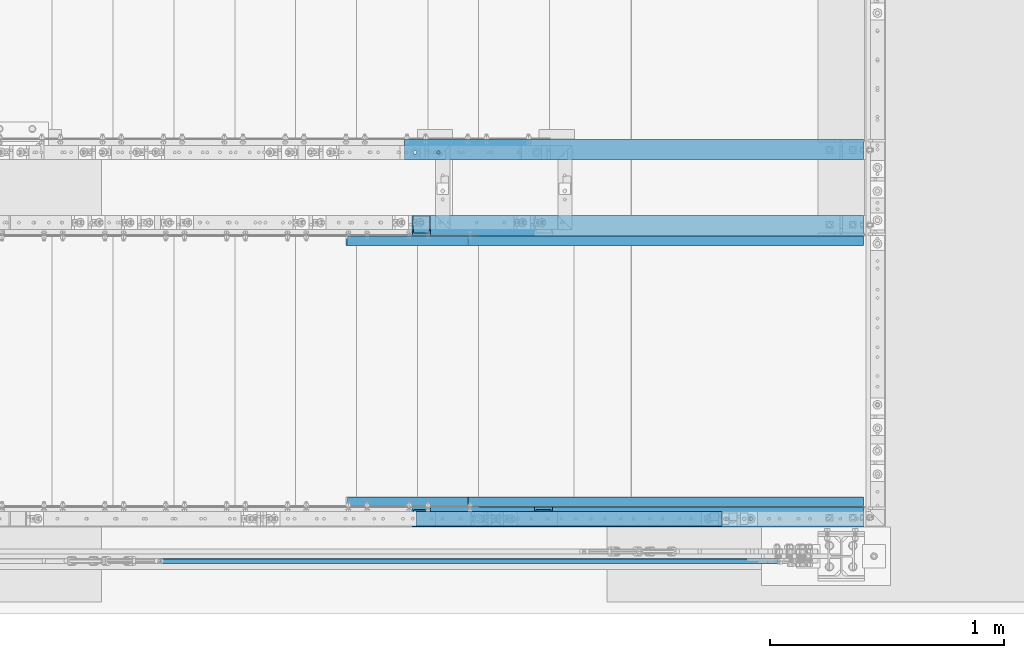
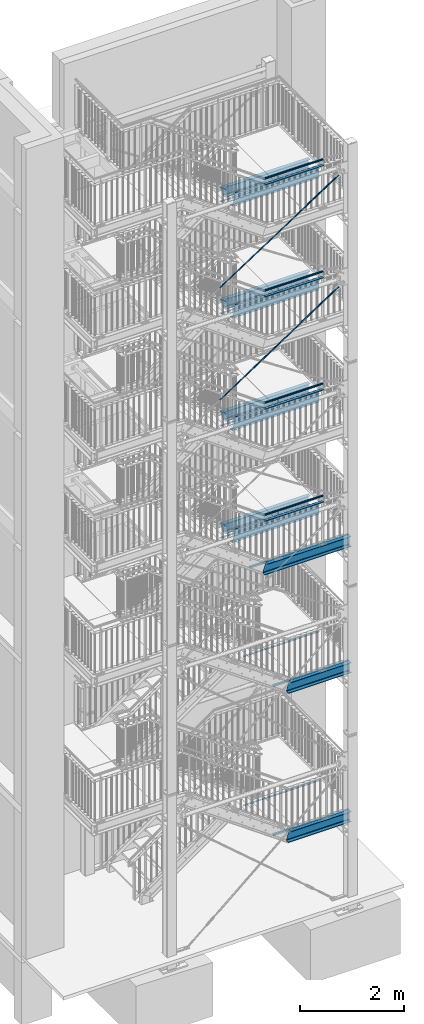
# One storey, part 127 of 825: 28 beams, 2 members, 38 openings.
"""IFC2X3 building model written with IfcOpenShell, lengths in millimetres."""

from ifc_helpers import new_model, entity, si_unit, converted_unit, frame, frame_2d, origin, origin_with_axes, origin_2d, origin_2d_with_axis, place, context, project, spatial, rectangle, circle, hollow_circle, l_section, u_section, extrude, clip, halfspace, material, element, save


model = new_model("IFC2X3")

# Units and contexts
model_context = context("Model", 3, precision=1e-09, world=origin_with_axes())
ifc_project = project(units=[si_unit("LENGTHUNIT", "METRE", prefix="MILLI"), si_unit("AREAUNIT", "SQUARE_METRE"), si_unit("VOLUMEUNIT", "CUBIC_METRE"), converted_unit("PLANEANGLEUNIT", "DEGREE", entity("IfcPlaneAngleMeasure", 0.01745329), si_unit("PLANEANGLEUNIT", "RADIAN"), dimensions=[0, 0, 0, 0, 0, 0, 0])], contexts=[model_context])

# Site, building, storey
site_placement = place(None, origin_with_axes())
site = spatial("IfcSite", under=ifc_project, at=site_placement, Name="Cnopf'sche Kinderklinik", CompositionType="ELEMENT")
building_placement = place(site_placement, origin_with_axes())
building = spatial("IfcBuilding", under=site, at=building_placement, Name="Struktur 1", CompositionType="ELEMENT")
storey_placement = place(building_placement, origin_with_axes())
storey = spatial("IfcBuildingStorey", under=building, at=storey_placement, Name="Default Storey", CompositionType="ELEMENT", Elevation=0.0)

# Beam, openings
ifc_material = material(Name="S235JR")
beam_1_placement = place(None, frame((6741.392105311, 6124.436971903, 11145.5000003), z_axis=(-1.0, 0.0, 0.0), x_axis=(0.0, -1.0, 0.0)))
beam_1 = element("IfcBeam", 1, at=beam_1_placement, inside=storey, material=ifc_material, Name="Stringer", ObjectType="Stringer", context=model_context, shape_type="Clipping", body=[
    clip(clip(extrude(u_section(Depth=240.0, FlangeWidth=85.0, WebThickness=9.5, FlangeThickness=13.0, FilletRadius=13.0, EdgeRadius=6.5, FlangeSlope=4.574, at=frame_2d((20.2, 0.0))), origin(), (0.0, 0.0, -1.0), 2477.625068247), halfspace(frame((6124.436971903, -11145.5000003, -2220.320297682), z_axis=(0.0, 0.0, 1.0), x_axis=(1.0, 0.0, 0.0)), True)), halfspace(frame((6124.436971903, -8031.601758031, -2894.216134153), z_axis=(0.0, 0.307506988, -0.951545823), x_axis=(-1.0, 0.0, 0.0)), True)),
])
opening_1_placement = place(beam_1_placement, frame((32.7, 120.5, -398.321297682), z_axis=(0.0, 1.0, 0.0), x_axis=(-1.0, 0.0, 0.0)))
element("IfcOpeningElement", 2, at=opening_1_placement, cuts=beam_1, ObjectType="Opening", context=model_context, shape_type="SweptSolid", body=[
    extrude(circle(Radius=7.001, at=frame_2d((0.0, -7.001), x_axis=(1.0, 0.0))), origin(), (0.0, 0.0, -1.0), 14.0),
])
opening_2_placement = place(beam_1_placement, frame((32.7, 120.5, -298.321297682), z_axis=(0.0, 1.0, 0.0), x_axis=(-1.0, 0.0, 0.0)))
element("IfcOpeningElement", 3, at=opening_2_placement, cuts=beam_1, ObjectType="Opening", context=model_context, shape_type="SweptSolid", body=[
    extrude(circle(Radius=7.001, at=frame_2d((0.0, -7.001), x_axis=(1.0, 0.0))), origin(), (0.0, 0.0, -1.0), 14.0),
])
opening_3_placement = place(beam_1_placement, frame((22.7, -120.5, -2175.321297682), z_axis=(0.0, 1.0, 0.0), x_axis=(-1.0, 0.0, 0.0)))
element("IfcOpeningElement", 4, at=opening_3_placement, cuts=beam_1, ObjectType="Opening", context=model_context, shape_type="SweptSolid", body=[
    extrude(circle(Radius=7.001, at=origin_2d_with_axis()), origin(), (0.0, 0.0, 1.0), 14.0),
])
opening_4_placement = place(beam_1_placement, frame((22.7, -120.5, -2075.321297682), z_axis=(0.0, 1.0, 0.0), x_axis=(-1.0, 0.0, 0.0)))
element("IfcOpeningElement", 5, at=opening_4_placement, cuts=beam_1, ObjectType="Opening", context=model_context, shape_type="SweptSolid", body=[
    extrude(circle(Radius=7.001, at=origin_2d_with_axis()), origin(), (0.0, 0.0, 1.0), 14.0),
])

beam_2_placement = place(None, frame((6741.459458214, 6124.436971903, 8516.0), z_axis=(-1.0, 0.0, 0.0), x_axis=(0.0, -1.0, 0.0)))
beam_2 = element("IfcBeam", 6, at=beam_2_placement, inside=storey, material=ifc_material, Name="Stringer", ObjectType="Stringer", context=model_context, shape_type="Clipping", body=[
    clip(clip(extrude(u_section(Depth=240.0, FlangeWidth=85.0, WebThickness=9.5, FlangeThickness=13.0, FilletRadius=13.0, EdgeRadius=6.5, FlangeSlope=4.574, at=frame_2d((20.2, 0.0))), origin(), (0.0, 0.0, -1.0), 2477.557715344), halfspace(frame((6124.436971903, -8516.0, -2220.25294478), z_axis=(0.0, 0.0, 1.0), x_axis=(1.0, 0.0, 0.0)), True)), halfspace(frame((6124.436971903, -5645.874307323, -2126.143079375), z_axis=(0.0, 0.307936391, -0.951406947), x_axis=(-1.0, 0.0, 0.0)), True)),
])
opening_5_placement = place(beam_2_placement, frame((32.7, 120.5, -398.25394478), z_axis=(0.0, 1.0, 0.0), x_axis=(-1.0, 0.0, 0.0)))
element("IfcOpeningElement", 7, at=opening_5_placement, cuts=beam_2, ObjectType="Opening", context=model_context, shape_type="SweptSolid", body=[
    extrude(circle(Radius=7.001, at=frame_2d((0.0, -7.001), x_axis=(1.0, 0.0))), origin(), (0.0, 0.0, -1.0), 14.0),
])
opening_6_placement = place(beam_2_placement, frame((32.7, 120.5, -298.25394478), z_axis=(0.0, 1.0, 0.0), x_axis=(-1.0, 0.0, 0.0)))
element("IfcOpeningElement", 8, at=opening_6_placement, cuts=beam_2, ObjectType="Opening", context=model_context, shape_type="SweptSolid", body=[
    extrude(circle(Radius=7.001, at=frame_2d((0.0, -7.001), x_axis=(1.0, 0.0))), origin(), (0.0, 0.0, -1.0), 14.0),
])
opening_7_placement = place(beam_2_placement, frame((22.7, -120.5, -2075.25394478), z_axis=(0.0, 1.0, 0.0), x_axis=(-1.0, 0.0, 0.0)))
element("IfcOpeningElement", 9, at=opening_7_placement, cuts=beam_2, ObjectType="Opening", context=model_context, shape_type="SweptSolid", body=[
    extrude(circle(Radius=7.001, at=origin_2d_with_axis()), origin(), (0.0, 0.0, 1.0), 14.0),
])
opening_8_placement = place(beam_2_placement, frame((22.7, -120.5, -2175.25394478), z_axis=(0.0, 1.0, 0.0), x_axis=(-1.0, 0.0, 0.0)))
element("IfcOpeningElement", 10, at=opening_8_placement, cuts=beam_2, ObjectType="Opening", context=model_context, shape_type="SweptSolid", body=[
    extrude(circle(Radius=7.001, at=origin_2d_with_axis()), origin(), (0.0, 0.0, 1.0), 14.0),
])

beam_3_placement = place(None, frame((6741.499671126, 6124.436971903, 13776.5000001), z_axis=(-1.0, 0.0, 0.0), x_axis=(0.0, -1.0, 0.0)))
beam_3 = element("IfcBeam", 11, at=beam_3_placement, inside=storey, material=ifc_material, Name="Stringer", ObjectType="Stringer", context=model_context, shape_type="Clipping", body=[
    clip(clip(extrude(u_section(Depth=240.0, FlangeWidth=85.0, WebThickness=9.5, FlangeThickness=13.0, FilletRadius=13.0, EdgeRadius=6.5, FlangeSlope=4.574, at=frame_2d((20.2, 0.0))), origin(), (0.0, 0.0, -1.0), 2477.517502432), halfspace(frame((6124.436971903, -13776.5000001, -2220.212731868), z_axis=(0.0, 0.0, 1.0), x_axis=(1.0, 0.0, 0.0)), True)), halfspace(frame((6124.436971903, -10403.792085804, -3669.278777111), z_axis=(0.0, 0.308193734, -0.951323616), x_axis=(-1.0, 0.0, 0.0)), True)),
])
opening_9_placement = place(beam_3_placement, frame((32.7, 120.5, -398.213731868), z_axis=(0.0, 1.0, 0.0), x_axis=(-1.0, 0.0, 0.0)))
element("IfcOpeningElement", 12, at=opening_9_placement, cuts=beam_3, ObjectType="Opening", context=model_context, shape_type="SweptSolid", body=[
    extrude(circle(Radius=7.001, at=frame_2d((0.0, -7.001), x_axis=(1.0, 0.0))), origin(), (0.0, 0.0, -1.0), 14.0),
])
opening_10_placement = place(beam_3_placement, frame((32.7, 120.5, -298.213731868), z_axis=(0.0, 1.0, 0.0), x_axis=(-1.0, 0.0, 0.0)))
element("IfcOpeningElement", 13, at=opening_10_placement, cuts=beam_3, ObjectType="Opening", context=model_context, shape_type="SweptSolid", body=[
    extrude(circle(Radius=7.001, at=frame_2d((0.0, -7.001), x_axis=(1.0, 0.0))), origin(), (0.0, 0.0, -1.0), 14.0),
])
opening_11_placement = place(beam_3_placement, frame((22.7, -120.5, -2175.213731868), z_axis=(0.0, 1.0, 0.0), x_axis=(-1.0, 0.0, 0.0)))
element("IfcOpeningElement", 14, at=opening_11_placement, cuts=beam_3, ObjectType="Opening", context=model_context, shape_type="SweptSolid", body=[
    extrude(circle(Radius=7.001, at=origin_2d_with_axis()), origin(), (0.0, 0.0, 1.0), 14.0),
])
opening_12_placement = place(beam_3_placement, frame((22.7, -120.5, -2075.213731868), z_axis=(0.0, 1.0, 0.0), x_axis=(-1.0, 0.0, 0.0)))
element("IfcOpeningElement", 15, at=opening_12_placement, cuts=beam_3, ObjectType="Opening", context=model_context, shape_type="SweptSolid", body=[
    extrude(circle(Radius=7.001, at=origin_2d_with_axis()), origin(), (0.0, 0.0, 1.0), 14.0),
])

beam_4_placement = place(None, frame((6741.297112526, 6124.436971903, 16404.0000003), z_axis=(-1.0, 0.0, 0.0), x_axis=(0.0, -1.0, 0.0)))
beam_4 = element("IfcBeam", 16, at=beam_4_placement, inside=storey, material=ifc_material, Name="Stringer", ObjectType="Stringer", context=model_context, shape_type="Clipping", body=[
    clip(clip(extrude(u_section(Depth=240.0, FlangeWidth=85.0, WebThickness=9.5, FlangeThickness=13.0, FilletRadius=13.0, EdgeRadius=6.5, FlangeSlope=4.574, at=frame_2d((20.2, 0.0))), origin(), (0.0, 0.0, -1.0), 2477.720061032), halfspace(frame((6124.436971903, -16404.0000003, -2220.415290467), z_axis=(0.0, 0.0, 1.0), x_axis=(1.0, 0.0, 0.0)), True)), halfspace(frame((6124.436971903, -12802.606591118, -4426.958467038), z_axis=(0.0, 0.306904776, -0.951740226), x_axis=(-1.0, 0.0, 0.0)), True)),
])
opening_13_placement = place(beam_4_placement, frame((32.7, 120.5, -398.416290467), z_axis=(0.0, 1.0, 0.0), x_axis=(-1.0, 0.0, 0.0)))
element("IfcOpeningElement", 17, at=opening_13_placement, cuts=beam_4, ObjectType="Opening", context=model_context, shape_type="SweptSolid", body=[
    extrude(circle(Radius=7.001, at=frame_2d((0.0, -7.001), x_axis=(1.0, 0.0))), origin(), (0.0, 0.0, -1.0), 14.0),
])
opening_14_placement = place(beam_4_placement, frame((32.7, 120.5, -298.416290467), z_axis=(0.0, 1.0, 0.0), x_axis=(-1.0, 0.0, 0.0)))
element("IfcOpeningElement", 18, at=opening_14_placement, cuts=beam_4, ObjectType="Opening", context=model_context, shape_type="SweptSolid", body=[
    extrude(circle(Radius=7.001, at=frame_2d((0.0, -7.001), x_axis=(1.0, 0.0))), origin(), (0.0, 0.0, -1.0), 14.0),
])
opening_15_placement = place(beam_4_placement, frame((22.7, -120.5, -2075.416290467), z_axis=(0.0, 1.0, 0.0), x_axis=(-1.0, 0.0, 0.0)))
element("IfcOpeningElement", 19, at=opening_15_placement, cuts=beam_4, ObjectType="Opening", context=model_context, shape_type="SweptSolid", body=[
    extrude(circle(Radius=7.001, at=origin_2d_with_axis()), origin(), (0.0, 0.0, 1.0), 14.0),
])
opening_16_placement = place(beam_4_placement, frame((22.7, -120.5, -2175.416290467), z_axis=(0.0, 1.0, 0.0), x_axis=(-1.0, 0.0, 0.0)))
element("IfcOpeningElement", 20, at=opening_16_placement, cuts=beam_4, ObjectType="Opening", context=model_context, shape_type="SweptSolid", body=[
    extrude(circle(Radius=7.001, at=origin_2d_with_axis()), origin(), (0.0, 0.0, 1.0), 14.0),
])

# Beam
beam_5_placement = place(None, frame((6757.455876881, 5722.536971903, 11254.3000003), z_axis=(-1.0, 0.0, 0.0), x_axis=(0.0, 0.0, -1.0)))
element("IfcBeam", 21, at=beam_5_placement, inside=storey, material=ifc_material, Name="BottomLanding#3", ObjectType="BottomLanding#3", context=model_context, shape_type="SweptSolid", body=[
    extrude(l_section(Depth=40.0, Width=40.0, Thickness=4.0, FilletRadius=6.0, EdgeRadius=3.0, at=frame_2d((8.8, 8.8))), origin(), (0.0, 0.0, -1.0), 2204.257526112),
])

# Beam, openings
beam_6_placement = place(None, frame((9219.017173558, 5759.036971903, 11145.5000003), z_axis=(1.0, 0.0, 0.0), x_axis=(0.0, 1.0, 0.0)))
beam_6 = element("IfcBeam", 22, at=beam_6_placement, inside=storey, material=ifc_material, Name="BottomLanding#1", ObjectType="BottomLanding#1", context=model_context, shape_type="Clipping", body=[
    clip(clip(extrude(u_section(Depth=240.0, FlangeWidth=85.0, WebThickness=9.5, FlangeThickness=13.0, FilletRadius=13.0, EdgeRadius=6.5, FlangeSlope=4.574, at=frame_2d((20.2, 0.0))), origin(), (0.0, 0.0, -1.0), 2366.776191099), halfspace(frame((-5759.036971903, -11145.5000003, -257.304770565), z_axis=(0.0, 0.0, -1.0), x_axis=(-1.0, 0.0, 0.0)), True)), halfspace(frame((-5759.036971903, -12161.289703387, -6075.770068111), z_axis=(0.0, -0.307506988, 0.951545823), x_axis=(1.0, 0.0, 0.0)), True)),
])
opening_17_placement = place(beam_6_placement, frame((15.699, -120.5, -402.303770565), z_axis=(0.0, -1.0, 0.0), x_axis=(1.0, 0.0, 0.0)))
element("IfcOpeningElement", 23, at=opening_17_placement, cuts=beam_6, ObjectType="Opening", context=model_context, shape_type="SweptSolid", body=[
    extrude(circle(Radius=7.001, at=frame_2d((7.001, 0.0), x_axis=(1.0, 0.0))), origin(), (0.0, 0.0, -1.0), 14.0),
])
opening_18_placement = place(beam_6_placement, frame((15.699, -120.5, -302.303770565), z_axis=(0.0, -1.0, 0.0), x_axis=(1.0, 0.0, 0.0)))
element("IfcOpeningElement", 24, at=opening_18_placement, cuts=beam_6, ObjectType="Opening", context=model_context, shape_type="SweptSolid", body=[
    extrude(circle(Radius=7.001, at=frame_2d((7.001, 0.0), x_axis=(1.0, 0.0))), origin(), (0.0, 0.0, -1.0), 14.0),
])

beam_7_placement = place(None, frame((9219.017173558, 5759.036971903, 13776.5000001), z_axis=(1.0, 0.0, 0.0), x_axis=(0.0, 1.0, 0.0)))
beam_7 = element("IfcBeam", 25, at=beam_7_placement, inside=storey, material=ifc_material, Name="BottomLanding#1", ObjectType="BottomLanding#1", context=model_context, shape_type="Clipping", body=[
    clip(clip(extrude(u_section(Depth=240.0, FlangeWidth=85.0, WebThickness=9.5, FlangeThickness=13.0, FilletRadius=13.0, EdgeRadius=6.5, FlangeSlope=4.574, at=frame_2d((20.2, 0.0))), origin(), (0.0, 0.0, -1.0), 2367.00516843), halfspace(frame((-5759.036971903, -13776.5000001, -257.304770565), z_axis=(0.0, 0.0, -1.0), x_axis=(-1.0, 0.0, 0.0)), True)), halfspace(frame((-5759.036971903, -14541.73622123, -6856.907864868), z_axis=(0.0, -0.308193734, 0.951323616), x_axis=(1.0, 0.0, 0.0)), True)),
])
opening_19_placement = place(beam_7_placement, frame((15.699, -120.5, -302.303770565), z_axis=(0.0, -1.0, 0.0), x_axis=(1.0, 0.0, 0.0)))
element("IfcOpeningElement", 26, at=opening_19_placement, cuts=beam_7, ObjectType="Opening", context=model_context, shape_type="SweptSolid", body=[
    extrude(circle(Radius=7.001, at=frame_2d((7.001, 0.0), x_axis=(1.0, 0.0))), origin(), (0.0, 0.0, -1.0), 14.0),
])
opening_20_placement = place(beam_7_placement, frame((15.699, -120.5, -402.303770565), z_axis=(0.0, -1.0, 0.0), x_axis=(1.0, 0.0, 0.0)))
element("IfcOpeningElement", 27, at=opening_20_placement, cuts=beam_7, ObjectType="Opening", context=model_context, shape_type="SweptSolid", body=[
    extrude(circle(Radius=7.001, at=frame_2d((7.001, 0.0), x_axis=(1.0, 0.0))), origin(), (0.0, 0.0, -1.0), 14.0),
])

# Beam
beam_8_placement = place(None, frame((6757.937594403, 5722.536971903, 13885.3000001), z_axis=(-1.0, 0.0, 0.0), x_axis=(0.0, 0.0, -1.0)))
element("IfcBeam", 28, at=beam_8_placement, inside=storey, material=ifc_material, Name="BottomLanding#3", ObjectType="BottomLanding#3", context=model_context, shape_type="SweptSolid", body=[
    extrude(l_section(Depth=40.0, Width=40.0, Thickness=4.0, FilletRadius=6.0, EdgeRadius=3.0, at=frame_2d((8.8, 8.8))), origin(), (0.0, 0.0, -1.0), 2203.77580859),
])

# Beam, openings
beam_9_placement = place(None, frame((9219.017173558, 5759.036971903, 16404.0000003), z_axis=(1.0, 0.0, 0.0), x_axis=(0.0, 1.0, 0.0)))
beam_9 = element("IfcBeam", 29, at=beam_9_placement, inside=storey, material=ifc_material, Name="BottomLanding#1", ObjectType="BottomLanding#1", context=model_context, shape_type="Clipping", body=[
    clip(clip(extrude(u_section(Depth=240.0, FlangeWidth=85.0, WebThickness=9.5, FlangeThickness=13.0, FilletRadius=13.0, EdgeRadius=6.5, FlangeSlope=4.574, at=frame_2d((20.2, 0.0))), origin(), (0.0, 0.0, -1.0), 2366.575023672), halfspace(frame((-5759.036971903, -16404.0000003, -257.304770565), z_axis=(0.0, 0.0, -1.0), x_axis=(-1.0, 0.0, 0.0)), True)), halfspace(frame((-5759.036971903, -16925.049146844, -7603.195357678), z_axis=(0.0, -0.306904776, 0.951740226), x_axis=(1.0, 0.0, 0.0)), True)),
])
opening_21_placement = place(beam_9_placement, frame((15.699, -120.5, -402.303770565), z_axis=(0.0, -1.0, 0.0), x_axis=(1.0, 0.0, 0.0)))
element("IfcOpeningElement", 30, at=opening_21_placement, cuts=beam_9, ObjectType="Opening", context=model_context, shape_type="SweptSolid", body=[
    extrude(circle(Radius=7.001, at=frame_2d((7.001, 0.0), x_axis=(1.0, 0.0))), origin(), (0.0, 0.0, -1.0), 14.0),
])
opening_22_placement = place(beam_9_placement, frame((15.699, -120.5, -302.303770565), z_axis=(0.0, -1.0, 0.0), x_axis=(1.0, 0.0, 0.0)))
element("IfcOpeningElement", 31, at=opening_22_placement, cuts=beam_9, ObjectType="Opening", context=model_context, shape_type="SweptSolid", body=[
    extrude(circle(Radius=7.001, at=frame_2d((7.001, 0.0), x_axis=(1.0, 0.0))), origin(), (0.0, 0.0, -1.0), 14.0),
])

# Beam
beam_10_placement = place(None, frame((6751.713402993, 5722.536971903, 16512.8000003), z_axis=(-1.0, 0.0, 0.0), x_axis=(0.0, 0.0, -1.0)))
element("IfcBeam", 32, at=beam_10_placement, inside=storey, material=ifc_material, Name="BottomLanding#3", ObjectType="BottomLanding#3", context=model_context, shape_type="SweptSolid", body=[
    extrude(l_section(Depth=40.0, Width=40.0, Thickness=4.0, FilletRadius=6.0, EdgeRadius=3.0, at=frame_2d((8.8, 8.8))), origin(), (0.0, 0.0, -1.0), 2210.0),
])

# Members
member_1_placement = place(None, frame((8601.589769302, 4346.736971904, 14704.785339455), z_axis=(0.835719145, 0.0, 0.549157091), x_axis=(-0.549157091, 0.0, 0.835719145)))
element("IfcMember", 33, at=member_1_placement, inside=storey, material=ifc_material, Name="-", ObjectType="-", context=model_context, shape_type="SweptSolid", body=[
    extrude(circle(Radius=11.0, at=origin_2d()), origin(), (0.0, 0.0, -1.0), 3154.140224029),
])
member_2_placement = place(None, frame((8601.135141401, 4346.736971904, 17325.480034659), z_axis=(0.837153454, 0.0, 0.546968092), x_axis=(-0.546968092, 0.0, 0.837153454)))
element("IfcMember", 34, at=member_2_placement, inside=storey, material=ifc_material, Name="-", ObjectType="-", context=model_context, shape_type="SweptSolid", body=[
    extrude(circle(Radius=11.0, at=origin_2d()), origin(), (0.0, 0.0, -1.0), 3145.919934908),
])

# Beam, openings
beam_11_placement = place(None, frame((9219.017173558, 5759.036971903, 8516.0), z_axis=(1.0, 0.0, 0.0), x_axis=(0.0, 1.0, 0.0)))
beam_11 = element("IfcBeam", 35, at=beam_11_placement, inside=storey, material=ifc_material, Name="BottomLanding#1", ObjectType="BottomLanding#1", context=model_context, shape_type="Clipping", body=[
    clip(clip(extrude(u_section(Depth=240.0, FlangeWidth=85.0, WebThickness=9.5, FlangeThickness=13.0, FilletRadius=13.0, EdgeRadius=6.5, FlangeSlope=4.574, at=frame_2d((20.2, 0.0))), origin(), (0.0, 0.0, -1.0), 2366.919417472), halfspace(frame((-5759.036971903, -8516.0, -257.304770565), z_axis=(0.0, 0.0, -1.0), x_axis=(-1.0, 0.0, 0.0)), True)), halfspace(frame((-5759.036971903, -9780.725399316, -5311.494172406), z_axis=(0.0, -0.307936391, 0.951406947), x_axis=(1.0, 0.0, 0.0)), True)),
])
opening_23_placement = place(beam_11_placement, frame((15.699, -120.5, -402.303770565), z_axis=(0.0, -1.0, 0.0), x_axis=(1.0, 0.0, 0.0)))
element("IfcOpeningElement", 36, at=opening_23_placement, cuts=beam_11, ObjectType="Opening", context=model_context, shape_type="SweptSolid", body=[
    extrude(circle(Radius=7.001, at=frame_2d((7.001, 0.0), x_axis=(1.0, 0.0))), origin(), (0.0, 0.0, -1.0), 14.0),
])
opening_24_placement = place(beam_11_placement, frame((15.699, -120.5, -302.303770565), z_axis=(0.0, -1.0, 0.0), x_axis=(1.0, 0.0, 0.0)))
element("IfcOpeningElement", 37, at=opening_24_placement, cuts=beam_11, ObjectType="Opening", context=model_context, shape_type="SweptSolid", body=[
    extrude(circle(Radius=7.001, at=frame_2d((7.001, 0.0), x_axis=(1.0, 0.0))), origin(), (0.0, 0.0, -1.0), 14.0),
])

beam_12_placement = place(None, frame((9219.017173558, 4554.436971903, 8516.0), z_axis=(-1.0, 0.0, 0.0), x_axis=(0.0, -1.0, 0.0)))
beam_12 = element("IfcBeam", 38, at=beam_12_placement, inside=storey, material=ifc_material, Name="BottomLanding#2", ObjectType="BottomLanding#2", context=model_context, shape_type="Clipping", body=[
    clip(clip(extrude(u_section(Depth=240.0, FlangeWidth=85.0, WebThickness=9.5, FlangeThickness=13.0, FilletRadius=13.0, EdgeRadius=6.5, FlangeSlope=4.574, at=frame_2d((20.2, 0.0))), origin(), (0.0, 0.0, 1.0), 2366.919417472), halfspace(frame((4554.436971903, -8516.0, 257.304770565), z_axis=(0.0, 0.0, 1.0), x_axis=(1.0, 0.0, 0.0)), True)), halfspace(frame((4554.436971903, -9780.725399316, 5311.494172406), z_axis=(0.0, -0.307936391, -0.951406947), x_axis=(-1.0, 0.0, 0.0)), True)),
])
opening_25_placement = place(beam_12_placement, frame((27.7, 120.5, 1897.224056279), z_axis=(0.0, 1.0, 0.0), x_axis=(-1.0, 0.0, 0.0)))
element("IfcOpeningElement", 39, at=opening_25_placement, cuts=beam_12, ObjectType="Opening", context=model_context, shape_type="SweptSolid", body=[
    extrude(circle(Radius=7.001, at=frame_2d((0.0, 7.001), x_axis=(1.0, 0.0))), origin(), (0.0, 0.0, -1.0), 14.0),
])
opening_26_placement = place(beam_12_placement, frame((27.7, 120.5, 1797.224056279), z_axis=(0.0, 1.0, 0.0), x_axis=(-1.0, 0.0, 0.0)))
element("IfcOpeningElement", 40, at=opening_26_placement, cuts=beam_12, ObjectType="Opening", context=model_context, shape_type="SweptSolid", body=[
    extrude(circle(Radius=7.001, at=frame_2d((0.0, 7.001), x_axis=(1.0, 0.0))), origin(), (0.0, 0.0, -1.0), 14.0),
])
opening_27_placement = place(beam_12_placement, frame((27.7, 120.5, 912.223913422), z_axis=(0.0, 1.0, 0.0), x_axis=(-1.0, 0.0, 0.0)))
element("IfcOpeningElement", 41, at=opening_27_placement, cuts=beam_12, ObjectType="Opening", context=model_context, shape_type="SweptSolid", body=[
    extrude(circle(Radius=7.001, at=frame_2d((0.0, 7.001), x_axis=(1.0, 0.0))), origin(), (0.0, 0.0, -1.0), 14.0),
])
opening_28_placement = place(beam_12_placement, frame((27.7, 120.5, 812.223913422), z_axis=(0.0, 1.0, 0.0), x_axis=(-1.0, 0.0, 0.0)))
element("IfcOpeningElement", 42, at=opening_28_placement, cuts=beam_12, ObjectType="Opening", context=model_context, shape_type="SweptSolid", body=[
    extrude(circle(Radius=7.001, at=frame_2d((0.0, 7.001), x_axis=(1.0, 0.0))), origin(), (0.0, 0.0, -1.0), 14.0),
])
opening_29_placement = place(beam_12_placement, frame((29.701, -120.5, 302.303770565), z_axis=(0.0, -1.0, 0.0), x_axis=(1.0, 0.0, 0.0)))
element("IfcOpeningElement", 43, at=opening_29_placement, cuts=beam_12, ObjectType="Opening", context=model_context, shape_type="SweptSolid", body=[
    extrude(circle(Radius=7.001, at=frame_2d((-7.001, 0.0), x_axis=(1.0, 0.0))), origin(), (0.0, 0.0, -1.0), 14.0),
])
opening_30_placement = place(beam_12_placement, frame((29.701, -120.5, 402.303770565), z_axis=(0.0, -1.0, 0.0), x_axis=(1.0, 0.0, 0.0)))
element("IfcOpeningElement", 44, at=opening_30_placement, cuts=beam_12, ObjectType="Opening", context=model_context, shape_type="SweptSolid", body=[
    extrude(circle(Radius=7.001, at=frame_2d((-7.001, 0.0), x_axis=(1.0, 0.0))), origin(), (0.0, 0.0, -1.0), 14.0),
])

# Beams
for number, where, z_axis, x_axis, name in (
    (45, (8961.713402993, 4590.936971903, 8624.8), (1.0, 0.0, 0.0), (0.0, 0.0, -1.0), "BottomLanding#3"),
    (46, (6757.757393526, 5722.536971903, 8624.8), (-1.0, 0.0, 0.0), (0.0, 0.0, -1.0), "BottomLanding#3"),
):
    element("IfcBeam", number, at=place(None, frame(where, z_axis=z_axis, x_axis=x_axis)), inside=storey, material=ifc_material, Name=name, ObjectType="BottomLanding#3", context=model_context, shape_type="SweptSolid", body=[
        extrude(l_section(Depth=40.0, Width=40.0, Thickness=4.0, FilletRadius=6.0, EdgeRadius=3.0, at=frame_2d((8.8, 8.8))), origin(), (0.0, 0.0, -1.0), 2203.956009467),
    ])

# Beam, openings
beam_13_placement = place(None, frame((9219.017173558, 4554.436971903, 2061.0526312), z_axis=(-1.0, 0.0, 0.0), x_axis=(0.0, -1.0, 0.0)))
beam_13 = element("IfcBeam", 47, at=beam_13_placement, inside=storey, material=ifc_material, Name="BottomLanding#2", ObjectType="BottomLanding#2", context=model_context, shape_type="Clipping", body=[
    clip(clip(extrude(u_section(Depth=240.0, FlangeWidth=85.0, WebThickness=9.5, FlangeThickness=13.0, FilletRadius=13.0, EdgeRadius=6.5, FlangeSlope=4.574, at=frame_2d((20.2, 0.0))), origin(), (0.0, 0.0, 1.0), 1845.747262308), halfspace(frame((4554.436971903, -2061.0526312, 257.304770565), z_axis=(0.0, 0.0, 1.0), x_axis=(1.0, 0.0, 0.0)), True)), halfspace(frame((4554.436971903, -4072.348471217, 2926.031410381), z_axis=(0.0, -0.304437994, -0.952532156), x_axis=(-1.0, 0.0, 0.0)), True)),
])
opening_31_placement = place(beam_13_placement, frame((27.7, 120.5, 831.84206423), z_axis=(0.0, 1.0, 0.0), x_axis=(-1.0, 0.0, 0.0)))
element("IfcOpeningElement", 48, at=opening_31_placement, cuts=beam_13, ObjectType="Opening", context=model_context, shape_type="SweptSolid", body=[
    extrude(circle(Radius=7.001, at=frame_2d((0.0, 7.001), x_axis=(1.0, 0.0))), origin(), (0.0, 0.0, -1.0), 14.0),
])
opening_32_placement = place(beam_13_placement, frame((27.7, 120.5, 731.84206423), z_axis=(0.0, 1.0, 0.0), x_axis=(-1.0, 0.0, 0.0)))
element("IfcOpeningElement", 49, at=opening_32_placement, cuts=beam_13, ObjectType="Opening", context=model_context, shape_type="SweptSolid", body=[
    extrude(circle(Radius=7.001, at=frame_2d((0.0, 7.001), x_axis=(1.0, 0.0))), origin(), (0.0, 0.0, -1.0), 14.0),
])
opening_33_placement = place(beam_13_placement, frame((29.701, -120.5, 402.303770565), z_axis=(0.0, -1.0, 0.0), x_axis=(1.0, 0.0, 0.0)))
element("IfcOpeningElement", 50, at=opening_33_placement, cuts=beam_13, ObjectType="Opening", context=model_context, shape_type="SweptSolid", body=[
    extrude(circle(Radius=7.001, at=frame_2d((-7.001, 0.0), x_axis=(1.0, 0.0))), origin(), (0.0, 0.0, -1.0), 14.0),
])
opening_34_placement = place(beam_13_placement, frame((29.701, -120.5, 302.303770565), z_axis=(0.0, -1.0, 0.0), x_axis=(1.0, 0.0, 0.0)))
element("IfcOpeningElement", 51, at=opening_34_placement, cuts=beam_13, ObjectType="Opening", context=model_context, shape_type="SweptSolid", body=[
    extrude(circle(Radius=7.001, at=frame_2d((-7.001, 0.0), x_axis=(1.0, 0.0))), origin(), (0.0, 0.0, -1.0), 14.0),
])

# Beams
for number, where, z_axis, x_axis, name in (
    (52, (8961.713402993, 4590.936971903, 2169.8526312), (1.0, 0.0, 0.0), (0.0, 0.0, -1.0), "BottomLanding#3"),
    (53, (7275.270214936, 5722.536971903, 2169.8526312), (-1.0, 0.0, 0.0), (0.0, 0.0, -1.0), "BottomLanding#3"),
):
    element("IfcBeam", number, at=place(None, frame(where, z_axis=z_axis, x_axis=x_axis)), inside=storey, material=ifc_material, Name=name, ObjectType="BottomLanding#3", context=model_context, shape_type="SweptSolid", body=[
        extrude(l_section(Depth=40.0, Width=40.0, Thickness=4.0, FilletRadius=6.0, EdgeRadius=3.0, at=frame_2d((8.8, 8.8))), origin(), (0.0, 0.0, -1.0), 1686.443188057),
    ])

# Beam, openings
beam_14_placement = place(None, frame((9219.017173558, 4554.436971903, 5554.8947367), z_axis=(-1.0, 0.0, 0.0), x_axis=(0.0, -1.0, 0.0)))
beam_14 = element("IfcBeam", 54, at=beam_14_placement, inside=storey, material=ifc_material, Name="BottomLanding#2", ObjectType="BottomLanding#2", context=model_context, shape_type="Clipping", body=[
    clip(clip(extrude(u_section(Depth=240.0, FlangeWidth=85.0, WebThickness=9.5, FlangeThickness=13.0, FilletRadius=13.0, EdgeRadius=6.5, FlangeSlope=4.574, at=frame_2d((20.2, 0.0))), origin(), (0.0, 0.0, 1.0), 1844.790556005), halfspace(frame((4554.436971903, -5554.8947367, 257.304770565), z_axis=(0.0, 0.0, 1.0), x_axis=(1.0, 0.0, 0.0)), True)), halfspace(frame((4554.436971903, -7233.811372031, 3911.720022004), z_axis=(0.0, -0.301609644, -0.953431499), x_axis=(-1.0, 0.0, 0.0)), True)),
])
opening_35_placement = place(beam_14_placement, frame((27.7, 120.5, 912.223913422), z_axis=(0.0, 1.0, 0.0), x_axis=(-1.0, 0.0, 0.0)))
element("IfcOpeningElement", 55, at=opening_35_placement, cuts=beam_14, ObjectType="Opening", context=model_context, shape_type="SweptSolid", body=[
    extrude(circle(Radius=7.001, at=frame_2d((0.0, 7.001), x_axis=(1.0, 0.0))), origin(), (0.0, 0.0, -1.0), 14.0),
])
opening_36_placement = place(beam_14_placement, frame((27.7, 120.5, 812.223913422), z_axis=(0.0, 1.0, 0.0), x_axis=(-1.0, 0.0, 0.0)))
element("IfcOpeningElement", 56, at=opening_36_placement, cuts=beam_14, ObjectType="Opening", context=model_context, shape_type="SweptSolid", body=[
    extrude(circle(Radius=7.001, at=frame_2d((0.0, 7.001), x_axis=(1.0, 0.0))), origin(), (0.0, 0.0, -1.0), 14.0),
])
opening_37_placement = place(beam_14_placement, frame((29.701, -120.5, 302.303770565), z_axis=(0.0, -1.0, 0.0), x_axis=(1.0, 0.0, 0.0)))
element("IfcOpeningElement", 57, at=opening_37_placement, cuts=beam_14, ObjectType="Opening", context=model_context, shape_type="SweptSolid", body=[
    extrude(circle(Radius=7.001, at=frame_2d((-7.001, 0.0), x_axis=(1.0, 0.0))), origin(), (0.0, 0.0, -1.0), 14.0),
])
opening_38_placement = place(beam_14_placement, frame((29.701, -120.5, 402.303770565), z_axis=(0.0, -1.0, 0.0), x_axis=(1.0, 0.0, 0.0)))
element("IfcOpeningElement", 58, at=opening_38_placement, cuts=beam_14, ObjectType="Opening", context=model_context, shape_type="SweptSolid", body=[
    extrude(circle(Radius=7.001, at=frame_2d((-7.001, 0.0), x_axis=(1.0, 0.0))), origin(), (0.0, 0.0, -1.0), 14.0),
])

# Beams
for number, where, z_axis, x_axis, name in (
    (59, (8961.713402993, 4590.936971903, 5663.6947367), (1.0, 0.0, 0.0), (0.0, 0.0, -1.0), "BottomLanding#3"),
    (60, (7273.207299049, 5722.536971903, 5663.6947367), (-1.0, 0.0, 0.0), (0.0, 0.0, -1.0), "BottomLanding#3"),
):
    element("IfcBeam", number, at=place(None, frame(where, z_axis=z_axis, x_axis=x_axis)), inside=storey, material=ifc_material, Name=name, ObjectType="BottomLanding#3", context=model_context, shape_type="SweptSolid", body=[
        extrude(l_section(Depth=40.0, Width=40.0, Thickness=4.0, FilletRadius=6.0, EdgeRadius=3.0, at=frame_2d((8.8, 8.8))), origin(), (0.0, 0.0, -1.0), 1688.506103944),
    ])
beam_15_placement = place(None, frame((8357.292260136, 4526.736971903, 9649.8), z_axis=(1.0, 0.0, 0.0), x_axis=(0.0, 0.0, -1.0)))
element("IfcBeam", 61, at=beam_15_placement, inside=storey, material=ifc_material, Name="Railing_Kneerail_Landing#1014", ObjectType="Railing_Kneerail_Landing#1014", context=model_context, shape_type="SweptSolid", body=[
    extrude(rectangle(XDim=10.0, YDim=60.0, at=origin_2d()), origin(), (0.0, 0.0, -1.0), 1307.440538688),
])
beam_16_placement = place(None, frame((8357.292260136, 4535.536971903, 9776.0), z_axis=(1.0, 0.0, 0.0), x_axis=(0.0, 0.0, -1.0)))
element("IfcBeam", 62, at=beam_16_placement, inside=storey, material=ifc_material, Name="Railing_Handrail_Landing#6", ObjectType="Railing_Handrail_Landing#6", context=model_context, shape_type="Clipping", body=[
    clip(extrude(hollow_circle(Radius=21.2, WallThickness=3.2, at=origin_2d()), origin(), (0.0, 0.0, -1.0), 1332.091479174), halfspace(frame((10916.418096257, -4535.536971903, -4833.831796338), z_axis=(0.307936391, 0.0, 0.951406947), x_axis=(0.0, 1.0, 0.0)), True)),
])
beam_17_placement = place(None, frame((8357.292260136, 4526.736971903, 12279.3000003), z_axis=(1.0, 0.0, 0.0), x_axis=(0.0, 0.0, -1.0)))
element("IfcBeam", 63, at=beam_17_placement, inside=storey, material=ifc_material, Name="Railing_Kneerail_Landing#1012", ObjectType="Railing_Kneerail_Landing#1012", context=model_context, shape_type="SweptSolid", body=[
    extrude(rectangle(XDim=10.0, YDim=60.0, at=origin_2d()), origin(), (0.0, 0.0, -1.0), 1307.429970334),
])
beam_18_placement = place(None, frame((8357.292260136, 4535.536971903, 12405.5000003), z_axis=(1.0, 0.0, 0.0), x_axis=(0.0, 0.0, -1.0)))
element("IfcBeam", 64, at=beam_18_placement, inside=storey, material=ifc_material, Name="Railing_Handrail_Landing#6", ObjectType="Railing_Handrail_Landing#6", context=model_context, shape_type="Clipping", body=[
    clip(extrude(hollow_circle(Radius=21.2, WallThickness=3.2, at=origin_2d()), origin(), (0.0, 0.0, -1.0), 1332.086879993), halfspace(frame((13297.273101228, -4535.536971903, -5597.800595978), z_axis=(0.307506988, 0.0, 0.951545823), x_axis=(0.0, 1.0, 0.0)), True)),
])
beam_19_placement = place(None, frame((8357.292260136, 4526.736971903, 14910.3000001), z_axis=(1.0, 0.0, 0.0), x_axis=(0.0, 0.0, -1.0)))
element("IfcBeam", 65, at=beam_19_placement, inside=storey, material=ifc_material, Name="Railing_Kneerail_Landing#1014", ObjectType="Railing_Kneerail_Landing#1014", context=model_context, shape_type="SweptSolid", body=[
    extrude(rectangle(XDim=10.0, YDim=60.0, at=origin_2d()), origin(), (0.0, 0.0, -1.0), 1307.446874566),
])
beam_20_placement = place(None, frame((8357.292260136, 4535.536971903, 15036.5000001), z_axis=(1.0, 0.0, 0.0), x_axis=(0.0, 0.0, -1.0)))
element("IfcBeam", 66, at=beam_20_placement, inside=storey, material=ifc_material, Name="Railing_Handrail_Landing#6", ObjectType="Railing_Handrail_Landing#6", context=model_context, shape_type="Clipping", body=[
    clip(extrude(hollow_circle(Radius=21.2, WallThickness=3.2, at=origin_2d()), origin(), (0.0, 0.0, -1.0), 1332.094239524), halfspace(frame((15677.254505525, -4535.536971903, -6379.42955571), z_axis=(0.308193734, 0.0, 0.951323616), x_axis=(0.0, 1.0, 0.0)), True)),
])
beam_21_placement = place(None, frame((8357.292260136, 4526.736971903, 17537.8000003), z_axis=(1.0, 0.0, 0.0), x_axis=(0.0, 0.0, -1.0)))
element("IfcBeam", 67, at=beam_21_placement, inside=storey, material=ifc_material, Name="Railing_Kneerail_Landing#1012", ObjectType="Railing_Kneerail_Landing#1012", context=model_context, shape_type="SweptSolid", body=[
    extrude(rectangle(XDim=10.0, YDim=60.0, at=origin_2d()), origin(), (0.0, 0.0, -1.0), 1307.415156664),
])
beam_22_placement = place(None, frame((8357.292260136, 4535.536971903, 17664.0000003), z_axis=(1.0, 0.0, 0.0), x_axis=(0.0, 0.0, -1.0)))
element("IfcBeam", 68, at=beam_22_placement, inside=storey, material=ifc_material, Name="Railing_Handrail_Landing#6", ObjectType="Railing_Handrail_Landing#6", context=model_context, shape_type="Clipping", body=[
    clip(extrude(hollow_circle(Radius=21.2, WallThickness=3.2, at=origin_2d()), origin(), (0.0, 0.0, -1.0), 1332.080444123), halfspace(frame((18061.439551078, -4535.536971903, -7124.795285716), z_axis=(0.306904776, 0.0, 0.951740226), x_axis=(0.0, 1.0, 0.0)), True)),
])

save(model, "model.ifc")
